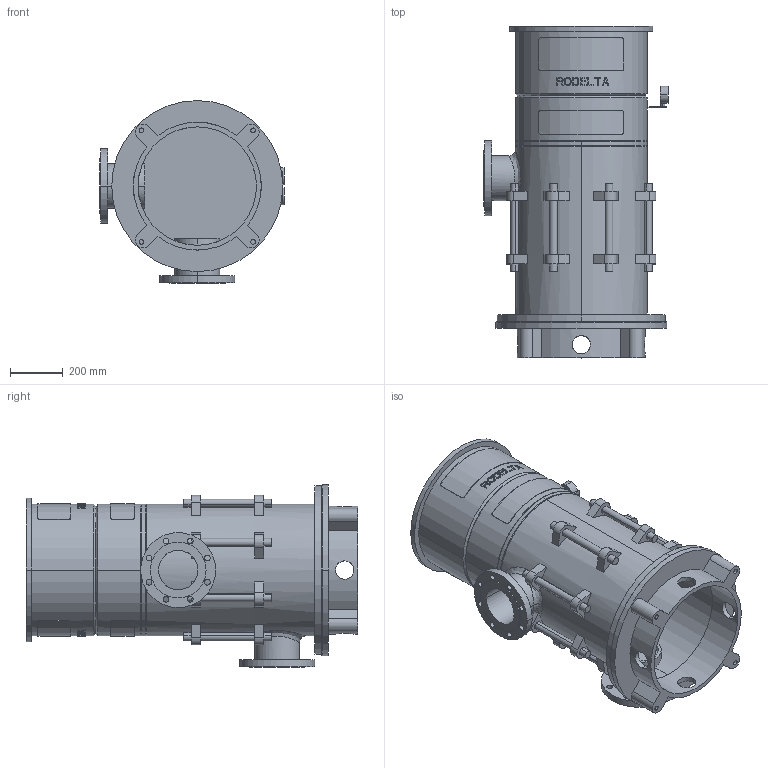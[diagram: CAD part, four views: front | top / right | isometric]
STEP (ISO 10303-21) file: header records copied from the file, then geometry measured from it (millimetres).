
FILE_DESCRIPTION((''),'2;1');
FILE_NAME('LS6_2TR_0GR_ABOVE_30KW','2023-08-15T',('Lyritlocal'),(''),'PRO/ENGINEER BY PARAMETRIC TECHNOLOGY CORPORATION, 2016360','PRO/ENGINEER BY PARAMETRIC TECHNOLOGY CORPORATION, 2016360','');
FILE_SCHEMA(('CONFIG_CONTROL_DESIGN'));
Length unit declared in the file: millimetre
Products named in the file (1): LS6_2TR_0GR_ABOVE_30KW
Bounding box: 700 x 1261 x 695 mm (x, y, z)
Volume: 44515258.1 mm3; surface area: 5930605.8 mm2
Topology: 3 solids, 7 shells, 684 faces, 1769 edges, 1174 vertices
Faces by surface type: plane 422, cylinder 242, cone 12, bspline 8
Entity records: 22581 total; most frequent: CARTESIAN_POINT 5961, ORIENTED_EDGE 3522, DIRECTION 3275, EDGE_CURVE 1769, AXIS2_PLACEMENT_3D 1237, VERTEX_POINT 1174, EDGE_LOOP 827, VECTOR 801
